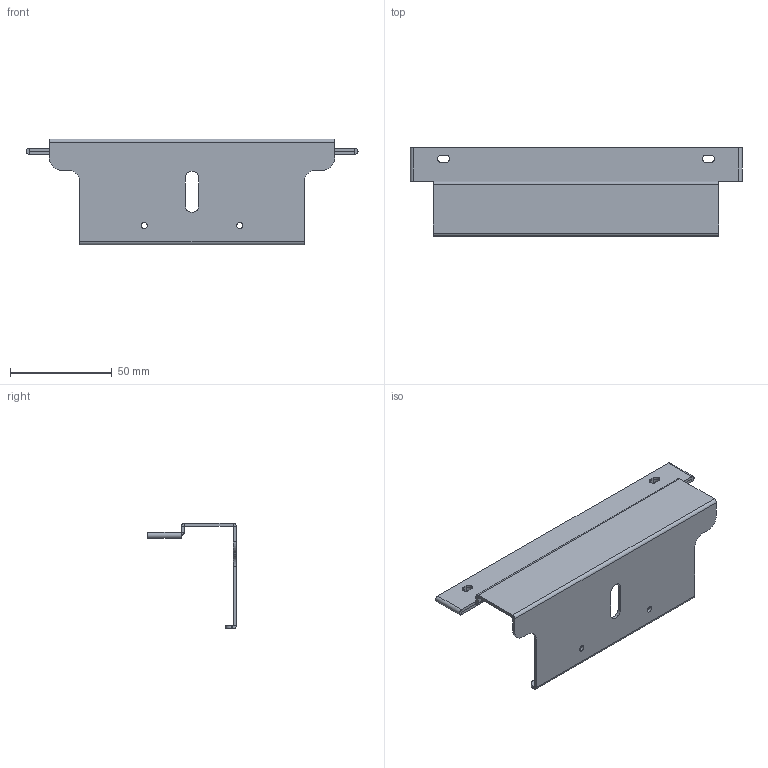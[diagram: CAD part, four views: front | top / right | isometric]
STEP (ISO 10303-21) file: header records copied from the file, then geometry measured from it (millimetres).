
FILE_DESCRIPTION((''),'2;1');
FILE_NAME('CAMERA_SPT_','2024-09-02T',('As11153'),(''),'CREO PARAMETRIC BY PTC INC, 2015080','CREO PARAMETRIC BY PTC INC, 2015080','');
FILE_SCHEMA(('AUTOMOTIVE_DESIGN { 1 0 10303 214 1 1 1 1 }'));
Length unit declared in the file: millimetre
Products named in the file (1): CAMERA_SPT_
Bounding box: 163 x 43.5 x 52 mm (x, y, z)
Volume: 21240.4 mm3; surface area: 29475.2 mm2
Topology: 1 solids, 1 shells, 97 faces, 237 edges, 142 vertices
Faces by surface type: plane 66, cylinder 31
Entity records: 3075 total; most frequent: DIRECTION 493, CARTESIAN_POINT 478, ORIENTED_EDGE 474, EDGE_CURVE 237, VECTOR 175, LINE 175, AXIS2_PLACEMENT_3D 159, VERTEX_POINT 142
